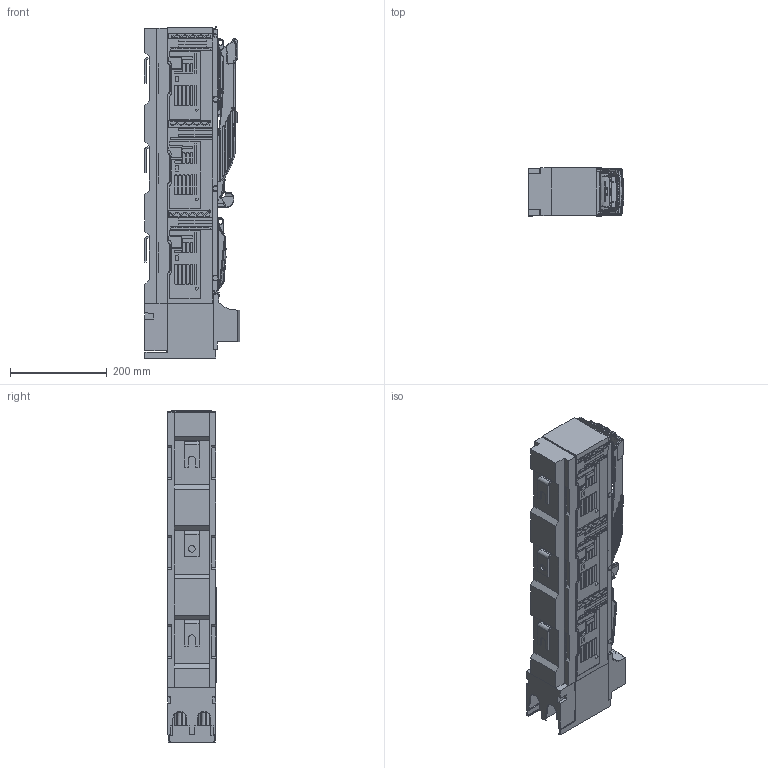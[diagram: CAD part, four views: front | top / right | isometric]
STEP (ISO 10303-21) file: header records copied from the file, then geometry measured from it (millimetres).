
FILE_DESCRIPTION(/* description */ (''),/* implementation_level */ '2;1');
FILE_NAME(/* name */ 'smartARS 2-6-V pro.stp',/* time_stamp */ '2018-07-16T09:48:58+02:00',/* author */ (''),/* organization */ (''),/* preprocessor_version */ 'ST-DEVELOPER v16',/* originating_system */ 'SIEMENS PLM Software NX 10.0',/* authorisation */ '');
FILE_SCHEMA (('AUTOMOTIVE_DESIGN { 1 0 10303 214 3 1 1 1 }'));
Products named in the file (1): 710_0AD4EC05y3il
Bounding box: 197.08 x 100.23 x 686.8 mm (x, y, z)
Volume: 8641358.6 mm3; surface area: 695962.3 mm2
Topology: 1 solids, 19 shells, 7289 faces, 19430 edges, 12225 vertices
Faces by surface type: plane 2932, bspline 2358, cylinder 1026, extrusion 463, torus 201, cone 160, sphere 147, revolution 2
Full cylindrical faces by diameter (mm): 3 x4, 3.5 x4, 3.7 x4, 6.5 x1, 8 x1, 9.5 x4, 9.6 x2, 14 x1
Entity records: 366268 total; most frequent: CARTESIAN_POINT 169928, ORIENTED_EDGE 38474, DIRECTION 26182, EDGE_CURVE 19237, VERTEX_POINT 12213, VECTOR 9080, LINE 8617, AXIS2_PLACEMENT_3D 8550
